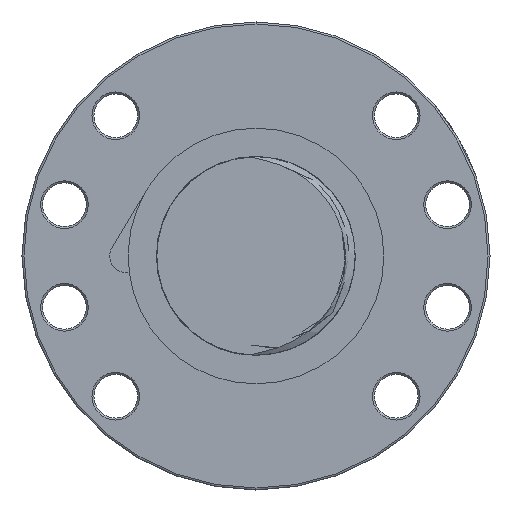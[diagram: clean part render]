
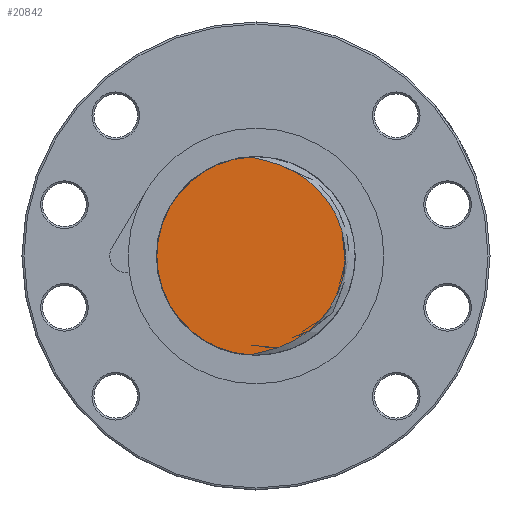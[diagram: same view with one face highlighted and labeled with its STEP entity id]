
A CAD part, left-side view. The second image highlights one B-rep face of the part: STEP entity #20842.
In plain terms, the highlighted planar face has unit normal (-1, 0, 0).
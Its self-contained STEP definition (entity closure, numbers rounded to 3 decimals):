
#8326 = CARTESIAN_POINT ( 'NONE',  ( -150., -21.247, -7.725 ) ) ;
#8327 = CARTESIAN_POINT ( 'NONE',  ( -150., -20.976, -8.475 ) ) ;
#8328 = CARTESIAN_POINT ( 'NONE',  ( -150., -20.062, -10.654 ) ) ;
#8329 = CARTESIAN_POINT ( 'NONE',  ( -150., -19.316, -12.029 ) ) ;
#8330 = CARTESIAN_POINT ( 'NONE',  ( -150., -18.003, -13.981 ) ) ;
#8331 = CARTESIAN_POINT ( 'NONE',  ( -150., -17.532, -14.613 ) ) ;
#8332 = CARTESIAN_POINT ( 'NONE',  ( -150., -16.523, -15.839 ) ) ;
#8333 = CARTESIAN_POINT ( 'NONE',  ( -150., -15.993, -16.423 ) ) ;
#8334 = CARTESIAN_POINT ( 'NONE',  ( -150., -14.331, -18.09 ) ) ;
#8335 = CARTESIAN_POINT ( 'NONE',  ( -150., -13.124, -19.086 ) ) ;
#8336 = CARTESIAN_POINT ( 'NONE',  ( -150., -11.174, -20.417 ) ) ;
#8337 = CARTESIAN_POINT ( 'NONE',  ( -150., -10.497, -20.834 ) ) ;
#8338 = CARTESIAN_POINT ( 'NONE',  ( -150., -9.115, -21.605 ) ) ;
#8339 = CARTESIAN_POINT ( 'NONE',  ( -150., -8.41, -21.958 ) ) ;
#8340 = CARTESIAN_POINT ( 'NONE',  ( -150., -6.971, -22.605 ) ) ;
#8341 = CARTESIAN_POINT ( 'NONE',  ( -150., -6.238, -22.898 ) ) ;
#8342 = CARTESIAN_POINT ( 'NONE',  ( -150., -4.746, -23.427 ) ) ;
#8343 = CARTESIAN_POINT ( 'NONE',  ( -150., -3.988, -23.662 ) ) ;
#8344 = CARTESIAN_POINT ( 'NONE',  ( -150., -2.462, -24.079 ) ) ;
#8345 = CARTESIAN_POINT ( 'NONE',  ( -150., -1.693, -24.262 ) ) ;
#8346 = CARTESIAN_POINT ( 'NONE',  ( -150., -0.534, -24.518 ) ) ;
#8347 = CARTESIAN_POINT ( 'NONE',  ( -150., -0.147, -24.6 ) ) ;
#8348 = CARTESIAN_POINT ( 'NONE',  ( -150., 0.626, -24.77 ) ) ;
#8349 = CARTESIAN_POINT ( 'NONE',  ( -150., 1.013, -24.855 ) ) ;
#8350 = CARTESIAN_POINT ( 'NONE',  ( -150., 1.393, -24.961 ) ) ;
#8351 = B_SPLINE_CURVE_WITH_KNOTS ( 'NONE', 3,
 ( #8350, #8349, #8348, #8347, #8346, #8345, #8344, #8343, #8342, #8341, #8340, #8339, #8338, #8337, #8336, #8335, #8334, #8333, #8332, #8331, #8330, #8329, #8328, #8327, #8326, #8454, #8453, #8452, #8451, #8450, #8449, #8448, #8447, #8446, #8445, #8444, #8443, #8442, #8441, #8440, #8439, #8438, #8437, #8436, #8435, #8434, #8433, #8432, #8431, #8430, #8429, #8428, #8427, #8426, #8425, #8424, #8423, #8422, #8421, #8420, #8419, #8418 ),
 .UNSPECIFIED., .F., .F.,
 ( 4, 2, 2, 2, 2, 2, 2, 2, 2, 2, 2, 2, 2, 2, 2, 2, 2, 2, 2, 2, 2, 2, 2, 2, 2, 2, 2, 2, 2, 2, 4 ),
 ( 0.001, 0.002, 0.003, 0.006, 0.008, 0.01, 0.013, 0.015, 0.02, 0.022, 0.025, 0.029, 0.032, 0.034, 0.039, 0.043, 0.046, 0.048, 0.053, 0.054, 0.055, 0.058, 0.062, 0.064, 0.065, 0.067, 0.069, 0.072, 0.074, 0.075, 0.077 ),
 .UNSPECIFIED. ) ;
#8418 = CARTESIAN_POINT ( 'NONE',  ( -150., 1.388, 24.961 ) ) ;
#8419 = CARTESIAN_POINT ( 'NONE',  ( -150., 1.007, 24.856 ) ) ;
#8420 = CARTESIAN_POINT ( 'NONE',  ( -150., 0.621, 24.771 ) ) ;
#8421 = CARTESIAN_POINT ( 'NONE',  ( -150., -0.153, 24.602 ) ) ;
#8422 = CARTESIAN_POINT ( 'NONE',  ( -150., -0.54, 24.519 ) ) ;
#8423 = CARTESIAN_POINT ( 'NONE',  ( -150., -1.7, 24.263 ) ) ;
#8424 = CARTESIAN_POINT ( 'NONE',  ( -150., -2.47, 24.079 ) ) ;
#8425 = CARTESIAN_POINT ( 'NONE',  ( -150., -3.997, 23.658 ) ) ;
#8426 = CARTESIAN_POINT ( 'NONE',  ( -150., -4.752, 23.423 ) ) ;
#8427 = CARTESIAN_POINT ( 'NONE',  ( -150., -6.235, 22.897 ) ) ;
#8428 = CARTESIAN_POINT ( 'NONE',  ( -150., -6.965, 22.606 ) ) ;
#8429 = CARTESIAN_POINT ( 'NONE',  ( -150., -8.397, 21.965 ) ) ;
#8430 = CARTESIAN_POINT ( 'NONE',  ( -150., -9.1, 21.614 ) ) ;
#8431 = CARTESIAN_POINT ( 'NONE',  ( -150., -10.132, 21.04 ) ) ;
#8432 = CARTESIAN_POINT ( 'NONE',  ( -150., -10.473, 20.841 ) ) ;
#8433 = CARTESIAN_POINT ( 'NONE',  ( -150., -11.147, 20.426 ) ) ;
#8434 = CARTESIAN_POINT ( 'NONE',  ( -150., -11.481, 20.21 ) ) ;
#8435 = CARTESIAN_POINT ( 'NONE',  ( -150., -13.114, 19.096 ) ) ;
#8436 = CARTESIAN_POINT ( 'NONE',  ( -150., -14.321, 18.094 ) ) ;
#8437 = CARTESIAN_POINT ( 'NONE',  ( -150., -15.985, 16.429 ) ) ;
#8438 = CARTESIAN_POINT ( 'NONE',  ( -150., -16.515, 15.846 ) ) ;
#8439 = CARTESIAN_POINT ( 'NONE',  ( -150., -17.272, 14.93 ) ) ;
#8440 = CARTESIAN_POINT ( 'NONE',  ( -150., -17.517, 14.617 ) ) ;
#8441 = CARTESIAN_POINT ( 'NONE',  ( -150., -17.99, 13.984 ) ) ;
#8442 = CARTESIAN_POINT ( 'NONE',  ( -150., -18.218, 13.663 ) ) ;
#8443 = CARTESIAN_POINT ( 'NONE',  ( -150., -19.317, 12.034 ) ) ;
#8444 = CARTESIAN_POINT ( 'NONE',  ( -150., -20.061, 10.656 ) ) ;
#8445 = CARTESIAN_POINT ( 'NONE',  ( -150., -20.973, 8.474 ) ) ;
#8446 = CARTESIAN_POINT ( 'NONE',  ( -150., -21.244, 7.724 ) ) ;
#8447 = CARTESIAN_POINT ( 'NONE',  ( -150., -21.707, 6.216 ) ) ;
#8448 = CARTESIAN_POINT ( 'NONE',  ( -150., -21.9, 5.455 ) ) ;
#8449 = CARTESIAN_POINT ( 'NONE',  ( -150., -22.366, 3.152 ) ) ;
#8450 = CARTESIAN_POINT ( 'NONE',  ( -150., -22.526, 1.588 ) ) ;
#8451 = CARTESIAN_POINT ( 'NONE',  ( -150., -22.523, -1.588 ) ) ;
#8452 = CARTESIAN_POINT ( 'NONE',  ( -150., -22.364, -3.149 ) ) ;
#8453 = CARTESIAN_POINT ( 'NONE',  ( -150., -21.9, -5.453 ) ) ;
#8454 = CARTESIAN_POINT ( 'NONE',  ( -150., -21.708, -6.215 ) ) ;
#8463 = FACE_OUTER_BOUND ( 'NONE', #20839, .T. ) ;
#8568 = DIRECTION ( 'NONE',  ( 0., 0., -1. ) ) ;
#8569 = DIRECTION ( 'NONE',  ( 1., 0., 0. ) ) ;
#8570 = CARTESIAN_POINT ( 'NONE',  ( -150., 0., 0. ) ) ;
#8571 = AXIS2_PLACEMENT_3D ( 'NONE', #8570, #8569, #8568 ) ;
#8572 = PLANE ( 'NONE',  #8571 ) ;
#19345 = VERTEX_POINT ( 'NONE', #25479 ) ;
#19367 = VERTEX_POINT ( 'NONE', #25458 ) ;
#19376 = EDGE_CURVE ( 'NONE', #19367, #19345, #25379, .T. ) ;
#20839 = EDGE_LOOP ( 'NONE', ( #20845, #20847 ) ) ;
#20842 = ADVANCED_FACE ( 'NONE', ( #8463 ), #8572, .F. ) ;
#20845 = ORIENTED_EDGE ( 'NONE', *, *, #19376, .F. ) ;
#20847 = ORIENTED_EDGE ( 'NONE', *, *, #20849, .T. ) ;
#20849 = EDGE_CURVE ( 'NONE', #19367, #19345, #8351, .T. ) ;
#25376 = DIRECTION ( 'NONE',  ( 0., 1., 0. ) ) ;
#25377 = DIRECTION ( 'NONE',  ( 1., 0., 0. ) ) ;
#25378 = AXIS2_PLACEMENT_3D ( 'NONE', #25381, #25377, #25376 ) ;
#25379 = CIRCLE ( 'NONE', #25378, 25. ) ;
#25381 = CARTESIAN_POINT ( 'NONE',  ( -150., 0., 0. ) ) ;
#25458 = CARTESIAN_POINT ( 'NONE',  ( -150., 1.393, -24.961 ) ) ;
#25479 = CARTESIAN_POINT ( 'NONE',  ( -150., 1.388, 24.961 ) ) ;
